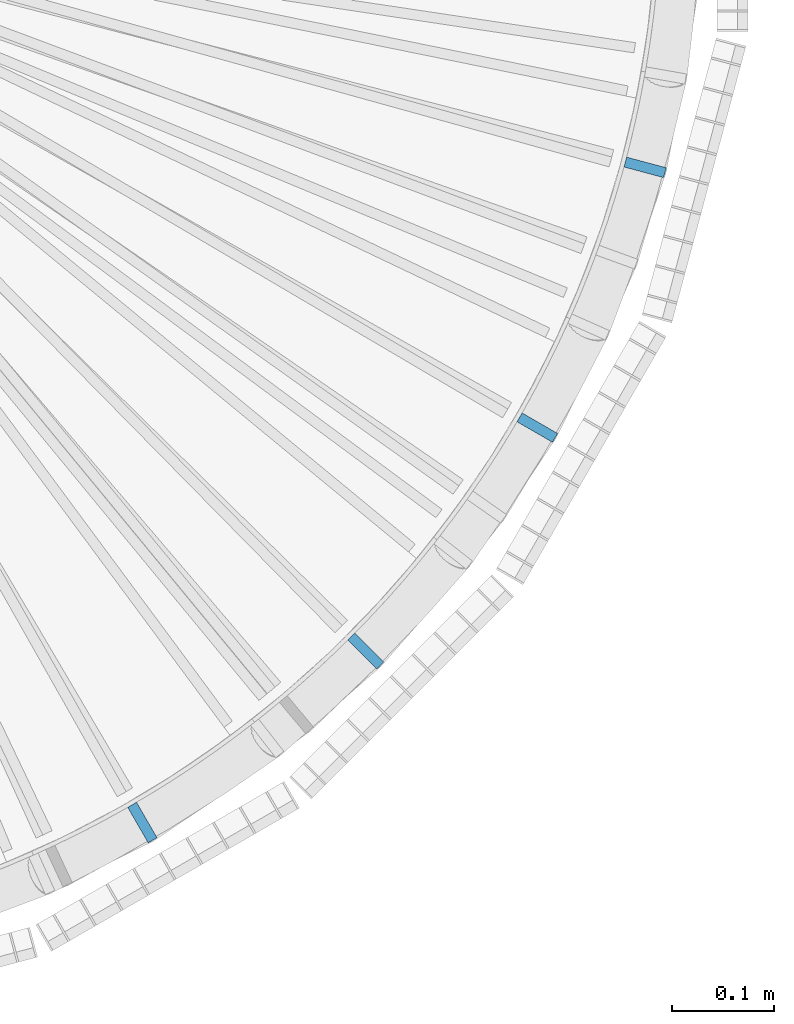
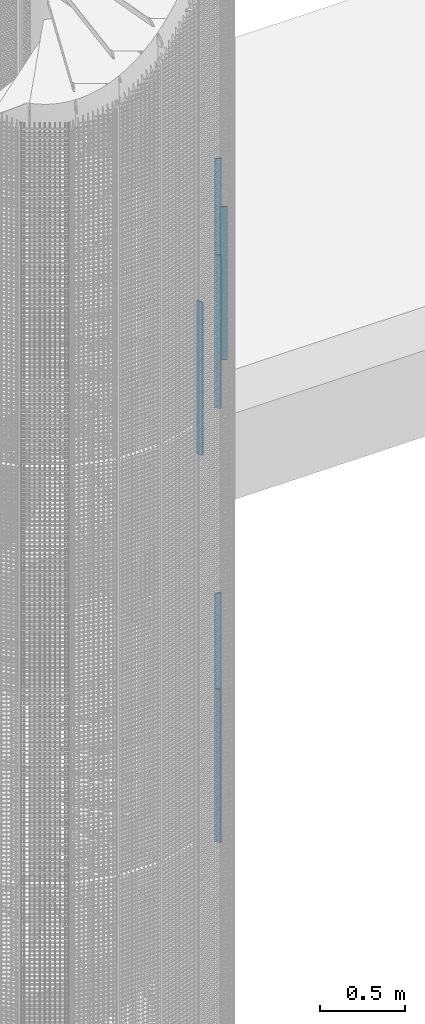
# One storey, part 13 of 1148: 6 columns, 6 elements without a shape of their own.
"""IFC2X3 building model written with IfcOpenShell, lengths in millimetres."""

import ifcopenshell
import ifcopenshell.guid

model = None  # the IFC model being written
_history = None  # IfcOwnerHistory: only IFC2X3 demands one
_inside = {}  # id of a spatial element -> (the spatial element, [elements in it])
_under = {}  # id of a project, library or spatial element -> (it, [spatial elements below it])
_declared = {}  # id of a project -> (the project, [libraries it declares])
_typed = {}  # id of a type object -> (the type object, [elements of that type])
_made_of = {}  # id of a material, layer set ... -> (it, [elements and type objects made of it])


def new_model(schema):
    """Start an empty IFC model of exactly this schema.

    Asked for "IFC4X3", IfcOpenShell would pick the latest addendum, in which some entities
    have other attributes; the version numbers below select the first issue.
    IFC2X3 requires an IfcOwnerHistory on every rooted entity: one is made here for all.
    """
    global model, _history
    if schema == "IFC4X3":
        model = ifcopenshell.file(schema_version=(4, 3, 0, 0))
    else:
        model = ifcopenshell.file(schema=schema)
    _inside.clear()
    _under.clear()
    _declared.clear()
    _typed.clear()
    _made_of.clear()
    _history = None
    if model.schema == "IFC2X3":
        org = make("IfcOrganization", Name="unknown")
        user = make(
            "IfcPersonAndOrganization",
            ThePerson=make("IfcPerson", FamilyName="unknown"),
            TheOrganization=org,
        )
        app = make(
            "IfcApplication",
            ApplicationDeveloper=org,
            Version="unknown",
            ApplicationFullName="unknown",
            ApplicationIdentifier="unknown",
        )
        _history = make(
            "IfcOwnerHistory",
            OwningUser=user,
            OwningApplication=app,
            ChangeAction="ADDED",
            CreationDate=0,
        )
    return model


def make(cls, **values):
    """One entity of the class cls with the attributes given. An attribute that is None is left unset."""
    return model.create_entity(
        cls, **{name: value for name, value in values.items() if value is not None}
    )


def rooted(cls, **values):
    """An entity with a GlobalId (a new one), such as an element, a storey or a relation."""
    return make(cls, GlobalId=ifcopenshell.guid.new(), OwnerHistory=_history, **values)


def si_unit(unit_type, name, prefix=None):
    """IfcSIUnit, for example si_unit("LENGTHUNIT", "METRE", prefix="MILLI")."""
    return make("IfcSIUnit", UnitType=unit_type, Prefix=prefix, Name=name)


def assignment(units):
    """IfcUnitAssignment: the units of a project."""
    return None if units is None else make("IfcUnitAssignment", Units=units)


def point(xyz):
    """IfcCartesianPoint."""
    return None if xyz is None else make("IfcCartesianPoint", Coordinates=xyz)


def direction(xyz):
    """IfcDirection."""
    return None if xyz is None else make("IfcDirection", DirectionRatios=xyz)


def frame(location, z_axis=None, x_axis=None):
    """IfcAxis2Placement3D, a coordinate frame: its origin and axes. An axis left out is left unset."""
    return make(
        "IfcAxis2Placement3D",
        Location=point(location),
        Axis=direction(z_axis),
        RefDirection=direction(x_axis),
    )


def frame_2d(location, x_axis=None):
    """IfcAxis2Placement2D, a coordinate frame in the plane: its origin and x axis."""
    return make(
        "IfcAxis2Placement2D", Location=point(location), RefDirection=direction(x_axis)
    )


def origin_with_axes():
    """The frame at (0, 0, 0) with the z axis (0, 0, 1) and the x axis (1, 0, 0) written out."""
    return frame((0.0, 0.0, 0.0), z_axis=(0.0, 0.0, 1.0), x_axis=(1.0, 0.0, 0.0))


def origin_2d_with_axis():
    """The frame at (0, 0) in the plane with the x axis (1, 0) written out."""
    return frame_2d((0.0, 0.0), x_axis=(1.0, 0.0))


def place(relative_to, where):
    """IfcLocalPlacement: puts the frame where relative to a parent placement (None: the world)."""
    return make(
        "IfcLocalPlacement", PlacementRelTo=relative_to, RelativePlacement=where
    )


def context(
    kind, dimensions, precision=None, world=None, true_north=None, identifier=None
):
    """IfcGeometricRepresentationContext, for example the 3D "Model" context."""
    return make(
        "IfcGeometricRepresentationContext",
        ContextIdentifier=identifier,
        ContextType=kind,
        CoordinateSpaceDimension=dimensions,
        Precision=precision,
        WorldCoordinateSystem=world,
        TrueNorth=true_north,
    )


def subcontext(parent, identifier, kind, view, scale=None):
    """IfcGeometricRepresentationSubContext, for example "Body" below "Model"."""
    return make(
        "IfcGeometricRepresentationSubContext",
        ContextIdentifier=identifier,
        ContextType=kind,
        ParentContext=parent,
        TargetScale=scale,
        TargetView=view,
    )


def project(units=None, contexts=None):
    """IfcProject with its units and contexts."""
    return rooted(
        "IfcProject",
        Name="project",
        RepresentationContexts=contexts,
        UnitsInContext=assignment(units),
    )


def spatial(cls, under=None, at=None, **own):
    """A site, building, storey or space (cls), placed at a placement, below another one or the project."""
    s = rooted(cls, ObjectPlacement=at, **own)
    if under is not None:
        _under.setdefault(under.id(), (under, []))[1].append(s)
    return s


def profile(cls, at=None, kind="AREA", **sizes):
    """A parametric profile (cls). Its sizes go by their IFC names, for example OverallWidth=200.0."""
    return make(cls, ProfileType=kind, Position=at, **sizes)


def rectangle(**sizes):
    """IfcRectangleProfileDef."""
    return profile("IfcRectangleProfileDef", **sizes)


def extrude(swept, where, along, depth):
    """IfcExtrudedAreaSolid: the profile swept, set in the frame where, extruded along a direction by depth."""
    return make(
        "IfcExtrudedAreaSolid",
        SweptArea=swept,
        Position=where,
        ExtrudedDirection=direction(along),
        Depth=depth,
    )


def shape(context_of_items, identifier, shape_type, items):
    """IfcShapeRepresentation: the items that make up one representation, for example the "Body"."""
    return make(
        "IfcShapeRepresentation",
        ContextOfItems=context_of_items,
        RepresentationIdentifier=identifier,
        RepresentationType=shape_type,
        Items=items,
    )


def material(Name=None, Category=None):
    """IfcMaterial."""
    return make("IfcMaterial", Name=Name, Category=Category)


def made_of(thing, what):
    """Note that an element or type object is made of a material, layer set ...; save() writes the relation."""
    if what is not None:
        _made_of.setdefault(what.id(), (what, []))[1].append(thing)
    return thing


def type_object(cls, material=None, **own):
    """A type object (cls), such as IfcWallType, which elements share."""
    return made_of(rooted(cls, **own), material)


def element(
    cls,
    number,
    at=None,
    inside=None,
    cuts=None,
    type_object=None,
    material=None,
    context=None,
    identifier="Body",
    shape_type=None,
    held_by="IfcProductDefinitionShape",
    body=None,
    shapes=None,
    **own,
):
    """One element of the class cls, such as IfcWall. Its Tag is "e" and its number.

    at: its placement. inside: the storey or other place that contains it. cuts: it is an
    opening in that element (IfcRelVoidsElement). A single representation is given by context,
    identifier, shape_type and body (its items); several are given by shapes. held_by: the class
    of the entity that holds the representations. save() writes the other relations.
    """
    e = rooted(cls, Tag="e%d" % number, ObjectPlacement=at, **own)
    if body is not None:
        shapes = [shape(context, identifier, shape_type, body)]
    if shapes is not None:
        e.Representation = make(held_by, Representations=shapes)
    if inside is not None:
        _inside.setdefault(inside.id(), (inside, []))[1].append(e)
    if cuts is not None:
        rooted(
            "IfcRelVoidsElement", RelatingBuildingElement=cuts, RelatedOpeningElement=e
        )
    if type_object is not None:
        _typed.setdefault(type_object.id(), (type_object, []))[1].append(e)
    return made_of(e, material)


def aggregate(whole, parts):
    """IfcRelAggregates: a whole, such as a stair, and the parts it consists of."""
    return rooted("IfcRelAggregates", RelatingObject=whole, RelatedObjects=parts)


def save(model, path):
    """Write the relations noted so far, then the file.

    IfcRelAggregates (storeys below a building ...), IfcRelContainedInSpatialStructure (elements
    in a storey), IfcRelDefinesByType, IfcRelAssociatesMaterial and IfcRelDeclares: one each for
    every whole, place, type object, material and project.
    """
    for whole, parts in _under.values():
        aggregate(whole, parts)
    for where, things in _inside.values():
        rooted(
            "IfcRelContainedInSpatialStructure",
            RelatedElements=things,
            RelatingStructure=where,
        )
    for kind, things in _typed.values():
        rooted("IfcRelDefinesByType", RelatedObjects=things, RelatingType=kind)
    for what, things in _made_of.values():
        rooted("IfcRelAssociatesMaterial", RelatedObjects=things, RelatingMaterial=what)
    for by, libraries in _declared.values():
        rooted("IfcRelDeclares", RelatingContext=by, RelatedDefinitions=libraries)
    model.write(path)


model = new_model("IFC2X3")

# Units and contexts
model_context = context("Model", 3, precision=1e-05, world=origin_with_axes())
body_context = subcontext(model_context, "Body", "Model", "MODEL_VIEW")
ifc_project = project(units=[si_unit("LENGTHUNIT", "METRE", prefix="MILLI"), si_unit("AREAUNIT", "SQUARE_METRE"), si_unit("VOLUMEUNIT", "CUBIC_METRE"), si_unit("MASSUNIT", "GRAM", prefix="KILO"), si_unit("TIMEUNIT", "SECOND"), si_unit("PLANEANGLEUNIT", "RADIAN"), si_unit("SOLIDANGLEUNIT", "STERADIAN"), si_unit("THERMODYNAMICTEMPERATUREUNIT", "DEGREE_CELSIUS"), si_unit("LUMINOUSINTENSITYUNIT", "LUMEN")], contexts=[model_context])

# Site, building, storey
site_placement = place(None, origin_with_axes())
site = spatial("IfcSite", under=ifc_project, at=site_placement, Name="Undefined", CompositionType="ELEMENT")
building_placement = place(site_placement, origin_with_axes())
building = spatial("IfcBuilding", under=site, at=building_placement, Name="Undefined", CompositionType="ELEMENT")
storey_placement = place(building_placement, origin_with_axes())
storey = spatial("IfcBuildingStorey", under=building, at=storey_placement, Name="Undefined", CompositionType="ELEMENT", Elevation=0.0)

# Assembly, column
assembly_1_placement = place(storey_placement, origin_with_axes())
assembly_1 = element("IfcElementAssembly", 1, at=assembly_1_placement, inside=storey, Name="MONTANT", AssemblyPlace="NOTDEFINED", PredefinedType="NOTDEFINED")
ifc_material = material(Name="STEEL/S235JR")
column_type = type_object("IfcColumnType", Name="PL10*40", PredefinedType="NOTDEFINED")
column_1_placement = place(assembly_1_placement, frame((912.790775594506, -527.000000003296, 8994.32000000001), z_axis=(0.0, 0.0, 1.0), x_axis=(-0.866025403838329, 0.499999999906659, 0.0)))
column_1 = element("IfcColumn", 2, at=column_1_placement, type_object=column_type, material=ifc_material, Name="MONTANT", context=body_context, shape_type="SweptSolid", body=[
    extrude(rectangle(XDim=10.0, YDim=40.0, at=origin_2d_with_axis()), frame((0.0, 0.0, 1100.0), z_axis=(0.0, 0.0, -1.0), x_axis=(0.0, 1.0, 0.0)), (0.0, 0.0, 1.0), 1100.0),
])
aggregate(assembly_1, [column_1])

assembly_2_placement = place(storey_placement, origin_with_axes())
assembly_2 = element("IfcElementAssembly", 3, at=assembly_2_placement, inside=storey, Name="MONTANT", AssemblyPlace="NOTDEFINED", PredefinedType="NOTDEFINED")
column_2_placement = place(assembly_2_placement, frame((1018.08582091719, -272.795273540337, 9150.84000000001), z_axis=(0.0, 0.0, 1.0), x_axis=(-0.965925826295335, 0.258819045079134, 0.0)))
column_2 = element("IfcColumn", 4, at=column_2_placement, type_object=column_type, material=ifc_material, Name="MONTANT", context=body_context, shape_type="SweptSolid", body=[
    extrude(rectangle(XDim=10.0, YDim=40.0, at=origin_2d_with_axis()), frame((0.0, 0.0, 1100.0), z_axis=(0.0, 0.0, -1.0), x_axis=(0.0, 1.0, 0.0)), (0.0, 0.0, 1.0), 1100.0),
])
aggregate(assembly_2, [column_2])

assembly_3_placement = place(storey_placement, origin_with_axes())
assembly_3 = element("IfcElementAssembly", 5, at=assembly_3_placement, inside=storey, Name="MONTANT", AssemblyPlace="NOTDEFINED", PredefinedType="NOTDEFINED")
column_3_placement = place(assembly_3_placement, frame((745.290547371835, -745.290547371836, 8837.80000000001), z_axis=(0.0, 0.0, 1.0), x_axis=(-0.707106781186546, 0.707106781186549, 0.0)))
column_3 = element("IfcColumn", 6, at=column_3_placement, type_object=column_type, material=ifc_material, Name="MONTANT", context=body_context, shape_type="SweptSolid", body=[
    extrude(rectangle(XDim=10.0, YDim=40.0, at=origin_2d_with_axis()), frame((0.0, 0.0, 1100.0), z_axis=(0.0, 0.0, -1.0), x_axis=(0.0, 1.0, 0.0)), (0.0, 0.0, 1.0), 1100.0),
])
aggregate(assembly_3, [column_3])

assembly_4_placement = place(storey_placement, origin_with_axes())
assembly_4 = element("IfcElementAssembly", 7, at=assembly_4_placement, inside=storey, Name="MONTANT", AssemblyPlace="NOTDEFINED", PredefinedType="NOTDEFINED")
column_4_placement = place(assembly_4_placement, frame((527.000000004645, -912.790775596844, 8681.28000000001), z_axis=(0.0, 0.0, 1.0), x_axis=(-0.49999999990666, 0.866025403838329, 0.0)))
column_4 = element("IfcColumn", 8, at=column_4_placement, type_object=column_type, material=ifc_material, Name="MONTANT", context=body_context, shape_type="SweptSolid", body=[
    extrude(rectangle(XDim=10.0, YDim=40.0, at=origin_2d_with_axis()), frame((0.0, 0.0, 1100.0), z_axis=(0.0, 0.0, -1.0), x_axis=(0.0, 1.0, 0.0)), (0.0, 0.0, 1.0), 1100.0),
])
aggregate(assembly_4, [column_4])

assembly_5_placement = place(storey_placement, origin_with_axes())
assembly_5 = element("IfcElementAssembly", 9, at=assembly_5_placement, inside=storey, Name="MONTANT", AssemblyPlace="NOTDEFINED", PredefinedType="NOTDEFINED")
column_5_placement = place(assembly_5_placement, frame((1018.08582090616, -272.795273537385, 6026.28000000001), z_axis=(0.0, 0.0, 1.0), x_axis=(-0.965925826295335, 0.258819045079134, 0.0)))
column_5 = element("IfcColumn", 10, at=column_5_placement, type_object=column_type, material=ifc_material, Name="MONTANT", context=body_context, shape_type="SweptSolid", body=[
    extrude(rectangle(XDim=10.0, YDim=40.0, at=origin_2d_with_axis()), frame((0.0, 0.0, 1100.0), z_axis=(0.0, 0.0, -1.0), x_axis=(0.0, 1.0, 0.0)), (0.0, 0.0, 1.0), 1100.0),
])
aggregate(assembly_5, [column_5])

assembly_6_placement = place(storey_placement, origin_with_axes())
assembly_6 = element("IfcElementAssembly", 11, at=assembly_6_placement, inside=storey, Name="MONTANT", AssemblyPlace="NOTDEFINED", PredefinedType="NOTDEFINED")
column_6_placement = place(assembly_6_placement, frame((745.29054737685, -745.290547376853, 5717.24), z_axis=(0.0, 0.0, 1.0), x_axis=(-0.707106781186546, 0.707106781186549, 0.0)))
column_6 = element("IfcColumn", 12, at=column_6_placement, type_object=column_type, material=ifc_material, Name="MONTANT", context=body_context, shape_type="SweptSolid", body=[
    extrude(rectangle(XDim=10.0, YDim=40.0, at=origin_2d_with_axis()), frame((0.0, 0.0, 1100.0), z_axis=(0.0, 0.0, -1.0), x_axis=(0.0, 1.0, 0.0)), (0.0, 0.0, 1.0), 1100.0),
])
aggregate(assembly_6, [column_6])

save(model, "model.ifc")
